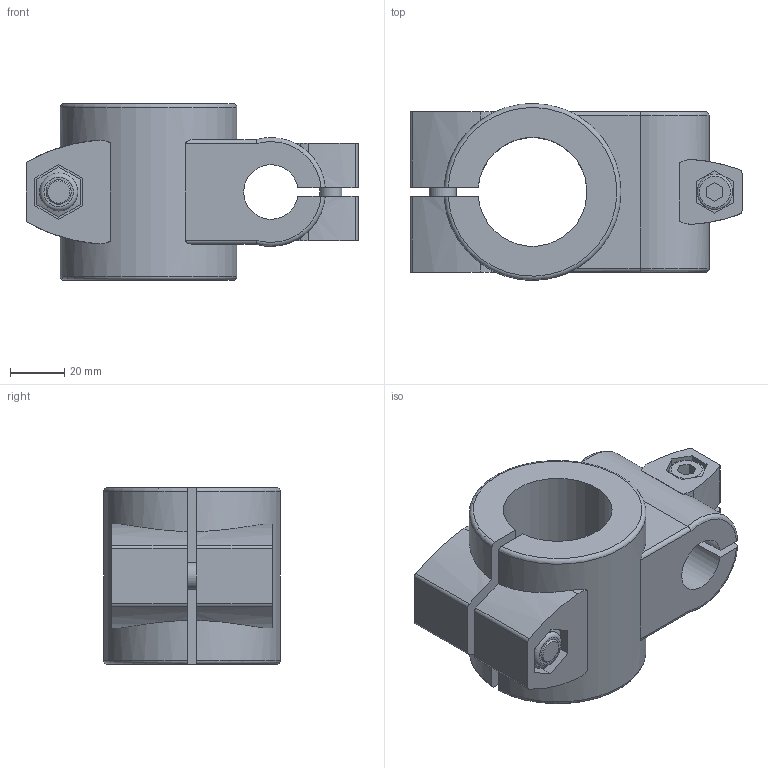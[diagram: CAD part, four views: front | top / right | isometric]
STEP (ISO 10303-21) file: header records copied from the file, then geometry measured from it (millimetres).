
FILE_DESCRIPTION( ( 'STEP AP214' ), ' ' );
FILE_NAME( 'p:/temp/worker_19/3240_3032/app_63_02015092610150176118821192d056f_000000_00_00_000000/format_0/Two-way connecting clamps GN 133-B40-B20-1-BL.stp', '2015-09-26T08:15:02', ( '' ), ( '' ), ' ', 'PARTsolutions', ' ' );
FILE_SCHEMA( ( 'AUTOMOTIVE_DESIGN { 1 0 10303 214 1 1 1 1 }' ) );
Length unit declared in the file: millimetre
Products named in the file (1): _Two-way connecting clamps GN 133-B40-B20-1-BL
Bounding box: 122 x 64.98 x 65 mm (x, y, z)
Volume: 226894 mm3; surface area: 45994.8 mm2
Topology: 1 solids, 1 shells, 155 faces, 412 edges, 272 vertices
Faces by surface type: plane 82, cylinder 59, torus 10, cone 4
Full cylindrical faces by diameter (mm): 8 x1, 10 x1, 12 x1, 13 x1, 14 x1, 16 x1
Entity records: 6358 total; most frequent: CARTESIAN_POINT 1346, ORIENTED_EDGE 788, DIRECTION 740, EDGE_CURVE 394, VERTEX_POINT 268, AXIS2_PLACEMENT_3D 254, LINE 232, VECTOR 232
